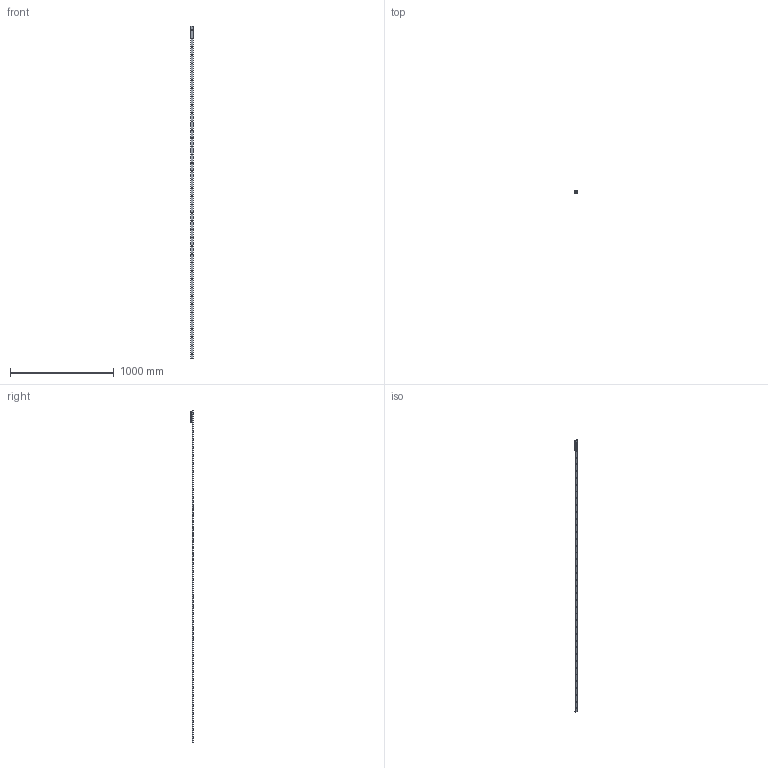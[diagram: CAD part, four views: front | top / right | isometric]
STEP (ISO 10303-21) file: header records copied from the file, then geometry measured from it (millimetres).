
FILE_DESCRIPTION( ( 'STEP AP214' ), '1' );
FILE_NAME( 'p:/temp/worker_21/temp/exporttempdir_4716_209_EfkjM/format_2/TGV-03200_1_RV28G-3.stp', '2020-11-20T16:43:48', ( 'License CC BY-ND 4.0' ), ( 'CADENAS' ), ' ', 'PARTsolutions', ' ' );
FILE_SCHEMA( ( 'AUTOMOTIVE_DESIGN { 1 0 10303 214 1 1 1 1 }' ) );
Length unit declared in the file: millimetre
Products named in the file (6): TGV-03200/1/RV28G-3; _TGV28-3200-(3-1); _RV28G-3-slider; _RGNV28R; _RGAV28R; _WR28G-01
Assembly tree (7 placements, depth 2):
  TGV-03200/1/RV28G-3
    _TGV28-3200-(3-1)
    _RV28G-3-slider
    _RGNV28R  x2
    _RGAV28R
    _WR28G-01  x2
Bounding box: 28 x 24 x 3200 mm (x, y, z)
Volume: 498503.3 mm3; surface area: 320886 mm2
Topology: 7 solids, 7 shells, 1092 faces, 2845 edges, 1849 vertices
Faces by surface type: plane 657, cylinder 320, cone 80, bspline 26, torus 9
Full cylindrical faces by diameter (mm): 1.27 x4, 2 x2, 2.5 x6, 4 x4, 4.134 x4, 4.2 x3, 5 x3, 5.5 x3, 5.75 x40, 7 x5, 7.5 x1, 8 x6, 10.8 x3, 17 x3, 20.75 x6
Entity records: 26851 total; most frequent: CARTESIAN_POINT 4195, DIRECTION 3600, ORIENTED_EDGE 3234, EDGE_CURVE 1617, AXIS2_PLACEMENT_3D 1405, VERTEX_POINT 1149, EDGE_LOOP 1031, FACE_OUTER_BOUND 801
